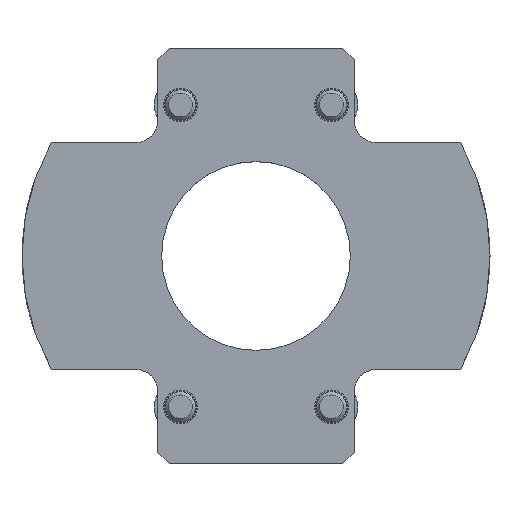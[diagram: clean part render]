
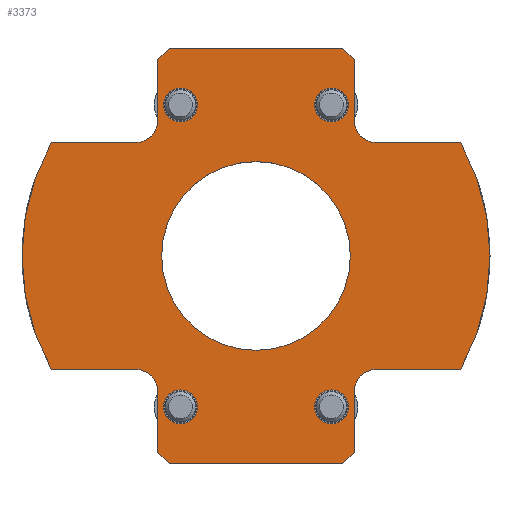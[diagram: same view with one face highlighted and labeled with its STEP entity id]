
A CAD part, top view. The second image highlights one B-rep face of the part: STEP entity #3373.
In plain terms, the highlighted planar face has unit normal (0, 0, 1) as drawn and (0, 0, -1) by its records, which use the part's own axes.
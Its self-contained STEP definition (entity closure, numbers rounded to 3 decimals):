
#159=FACE_BOUND('',#625,.T.);
#160=FACE_BOUND('',#626,.T.);
#161=FACE_BOUND('',#627,.T.);
#162=FACE_BOUND('',#628,.T.);
#163=FACE_BOUND('',#629,.T.);
#290=PLANE('',#3798);
#409=FACE_OUTER_BOUND('',#624,.T.);
#624=EDGE_LOOP('',(#2783,#2784,#2785,#2786,#2787,#2788,#2789,#2790,#2791,
#2792,#2793,#2794,#2795,#2796,#2797,#2798,#2799,#2800,#2801,#2802));
#625=EDGE_LOOP('',(#2803));
#626=EDGE_LOOP('',(#2804));
#627=EDGE_LOOP('',(#2805));
#628=EDGE_LOOP('',(#2806));
#629=EDGE_LOOP('',(#2807,#2808));
#771=LINE('',#5288,#1007);
#784=LINE('',#5328,#1020);
#796=LINE('',#5360,#1032);
#798=LINE('',#5363,#1034);
#827=LINE('',#5429,#1063);
#830=LINE('',#5434,#1066);
#832=LINE('',#5438,#1068);
#833=LINE('',#5440,#1069);
#837=LINE('',#5448,#1073);
#839=LINE('',#5451,#1075);
#882=LINE('',#5577,#1118);
#883=LINE('',#5581,#1119);
#890=LINE('',#5605,#1126);
#891=LINE('',#5609,#1127);
#1007=VECTOR('',#4246,10.);
#1020=VECTOR('',#4277,10.);
#1032=VECTOR('',#4299,10.);
#1034=VECTOR('',#4303,10.);
#1063=VECTOR('',#4348,10.);
#1066=VECTOR('',#4353,10.);
#1068=VECTOR('',#4357,10.);
#1069=VECTOR('',#4360,10.);
#1073=VECTOR('',#4366,10.);
#1075=VECTOR('',#4370,10.);
#1118=VECTOR('',#4509,10.);
#1119=VECTOR('',#4516,10.);
#1126=VECTOR('',#4543,10.);
#1127=VECTOR('',#4550,10.);
#1245=CIRCLE('',#3692,3.);
#1249=CIRCLE('',#3698,3.);
#1251=CIRCLE('',#3701,3.);
#1255=CIRCLE('',#3707,3.);
#1281=CIRCLE('',#3772,31.);
#1287=CIRCLE('',#3785,31.);
#1288=CIRCLE('',#3788,2.25);
#1289=CIRCLE('',#3790,2.25);
#1290=CIRCLE('',#3792,2.25);
#1291=CIRCLE('',#3794,2.25);
#1292=CIRCLE('',#3796,12.5);
#1293=CIRCLE('',#3797,12.5);
#1461=VERTEX_POINT('',#5277);
#1462=VERTEX_POINT('',#5279);
#1465=VERTEX_POINT('',#5287);
#1475=VERTEX_POINT('',#5308);
#1476=VERTEX_POINT('',#5310);
#1479=VERTEX_POINT('',#5317);
#1480=VERTEX_POINT('',#5319);
#1483=VERTEX_POINT('',#5327);
#1493=VERTEX_POINT('',#5348);
#1494=VERTEX_POINT('',#5350);
#1497=VERTEX_POINT('',#5357);
#1498=VERTEX_POINT('',#5359);
#1526=VERTEX_POINT('',#5426);
#1527=VERTEX_POINT('',#5428);
#1528=VERTEX_POINT('',#5432);
#1529=VERTEX_POINT('',#5436);
#1531=VERTEX_POINT('',#5445);
#1532=VERTEX_POINT('',#5447);
#1567=VERTEX_POINT('',#5575);
#1574=VERTEX_POINT('',#5603);
#1575=VERTEX_POINT('',#5611);
#1576=VERTEX_POINT('',#5615);
#1577=VERTEX_POINT('',#5619);
#1578=VERTEX_POINT('',#5623);
#1579=VERTEX_POINT('',#5627);
#1580=VERTEX_POINT('',#5628);
#1837=EDGE_CURVE('',#1461,#1462,#1245,.T.);
#1841=EDGE_CURVE('',#1462,#1465,#771,.T.);
#1852=EDGE_CURVE('',#1475,#1476,#1249,.T.);
#1856=EDGE_CURVE('',#1479,#1480,#1251,.T.);
#1860=EDGE_CURVE('',#1483,#1480,#784,.T.);
#1871=EDGE_CURVE('',#1493,#1494,#1255,.T.);
#1875=EDGE_CURVE('',#1497,#1498,#796,.T.);
#1877=EDGE_CURVE('',#1494,#1497,#798,.T.);
#1912=EDGE_CURVE('',#1526,#1527,#827,.T.);
#1915=EDGE_CURVE('',#1528,#1526,#830,.T.);
#1917=EDGE_CURVE('',#1529,#1528,#832,.T.);
#1918=EDGE_CURVE('',#1476,#1529,#833,.T.);
#1922=EDGE_CURVE('',#1531,#1532,#837,.T.);
#1924=EDGE_CURVE('',#1498,#1531,#839,.T.);
#1986=EDGE_CURVE('',#1567,#1475,#882,.T.);
#1987=EDGE_CURVE('',#1465,#1567,#1281,.T.);
#1988=EDGE_CURVE('',#1532,#1461,#883,.T.);
#2000=EDGE_CURVE('',#1493,#1574,#890,.T.);
#2001=EDGE_CURVE('',#1574,#1483,#1287,.T.);
#2002=EDGE_CURVE('',#1527,#1479,#891,.T.);
#2004=EDGE_CURVE('',#1575,#1575,#1288,.T.);
#2006=EDGE_CURVE('',#1576,#1576,#1289,.T.);
#2008=EDGE_CURVE('',#1577,#1577,#1290,.T.);
#2010=EDGE_CURVE('',#1578,#1578,#1291,.T.);
#2011=EDGE_CURVE('',#1579,#1580,#1292,.T.);
#2012=EDGE_CURVE('',#1580,#1579,#1293,.T.);
#2783=ORIENTED_EDGE('',*,*,#1875,.F.);
#2784=ORIENTED_EDGE('',*,*,#1877,.F.);
#2785=ORIENTED_EDGE('',*,*,#1871,.F.);
#2786=ORIENTED_EDGE('',*,*,#2000,.T.);
#2787=ORIENTED_EDGE('',*,*,#2001,.T.);
#2788=ORIENTED_EDGE('',*,*,#1860,.T.);
#2789=ORIENTED_EDGE('',*,*,#1856,.F.);
#2790=ORIENTED_EDGE('',*,*,#2002,.F.);
#2791=ORIENTED_EDGE('',*,*,#1912,.F.);
#2792=ORIENTED_EDGE('',*,*,#1915,.F.);
#2793=ORIENTED_EDGE('',*,*,#1917,.F.);
#2794=ORIENTED_EDGE('',*,*,#1918,.F.);
#2795=ORIENTED_EDGE('',*,*,#1852,.F.);
#2796=ORIENTED_EDGE('',*,*,#1986,.F.);
#2797=ORIENTED_EDGE('',*,*,#1987,.F.);
#2798=ORIENTED_EDGE('',*,*,#1841,.F.);
#2799=ORIENTED_EDGE('',*,*,#1837,.F.);
#2800=ORIENTED_EDGE('',*,*,#1988,.F.);
#2801=ORIENTED_EDGE('',*,*,#1922,.F.);
#2802=ORIENTED_EDGE('',*,*,#1924,.F.);
#2803=ORIENTED_EDGE('',*,*,#2004,.T.);
#2804=ORIENTED_EDGE('',*,*,#2006,.T.);
#2805=ORIENTED_EDGE('',*,*,#2008,.T.);
#2806=ORIENTED_EDGE('',*,*,#2010,.T.);
#2807=ORIENTED_EDGE('',*,*,#2011,.T.);
#2808=ORIENTED_EDGE('',*,*,#2012,.T.);
#3373=ADVANCED_FACE('',(#409,#159,#160,#161,#162,#163),#290,.F.);
#3692=AXIS2_PLACEMENT_3D('',#5280,#4238,#4239);
#3698=AXIS2_PLACEMENT_3D('',#5311,#4261,#4262);
#3701=AXIS2_PLACEMENT_3D('',#5320,#4269,#4270);
#3707=AXIS2_PLACEMENT_3D('',#5351,#4292,#4293);
#3772=AXIS2_PLACEMENT_3D('',#5579,#4512,#4513);
#3785=AXIS2_PLACEMENT_3D('',#5607,#4546,#4547);
#3788=AXIS2_PLACEMENT_3D('',#5613,#4554,#4555);
#3790=AXIS2_PLACEMENT_3D('',#5617,#4559,#4560);
#3792=AXIS2_PLACEMENT_3D('',#5621,#4564,#4565);
#3794=AXIS2_PLACEMENT_3D('',#5625,#4569,#4570);
#3796=AXIS2_PLACEMENT_3D('',#5629,#4573,#4574);
#3797=AXIS2_PLACEMENT_3D('',#5630,#4575,#4576);
#3798=AXIS2_PLACEMENT_3D('',#5632,#4578,#4579);
#4238=DIRECTION('center_axis',(0.,0.,-1.));
#4239=DIRECTION('ref_axis',(0.707,0.707,0.));
#4246=DIRECTION('',(0.,-1.,0.));
#4261=DIRECTION('center_axis',(0.,0.,-1.));
#4262=DIRECTION('ref_axis',(-0.707,0.707,0.));
#4269=DIRECTION('center_axis',(0.,0.,-1.));
#4270=DIRECTION('ref_axis',(-0.707,-0.707,0.));
#4277=DIRECTION('',(0.,-1.,0.));
#4292=DIRECTION('center_axis',(0.,0.,-1.));
#4293=DIRECTION('ref_axis',(0.707,-0.707,0.));
#4299=DIRECTION('',(-0.707,-0.707,0.));
#4303=DIRECTION('',(-1.,0.,0.));
#4348=DIRECTION('',(-0.707,0.707,0.));
#4353=DIRECTION('',(0.,1.,0.));
#4357=DIRECTION('',(0.707,0.707,0.));
#4360=DIRECTION('',(1.,0.,0.));
#4366=DIRECTION('',(0.707,-0.707,0.));
#4370=DIRECTION('',(0.,-1.,0.));
#4509=DIRECTION('',(0.,1.,0.));
#4512=DIRECTION('center_axis',(0.,0.,1.));
#4513=DIRECTION('ref_axis',(0.484,-0.875,0.));
#4516=DIRECTION('',(1.,0.,0.));
#4543=DIRECTION('',(0.,1.,0.));
#4546=DIRECTION('center_axis',(0.,0.,-1.));
#4547=DIRECTION('ref_axis',(0.484,0.875,0.));
#4550=DIRECTION('',(-1.,0.,0.));
#4554=DIRECTION('center_axis',(0.,0.,1.));
#4555=DIRECTION('ref_axis',(1.,0.,0.));
#4559=DIRECTION('center_axis',(0.,0.,1.));
#4560=DIRECTION('ref_axis',(1.,0.,0.));
#4564=DIRECTION('center_axis',(0.,0.,1.));
#4565=DIRECTION('ref_axis',(1.,0.,0.));
#4569=DIRECTION('center_axis',(0.,0.,1.));
#4570=DIRECTION('ref_axis',(1.,0.,0.));
#4573=DIRECTION('center_axis',(0.,0.,1.));
#4574=DIRECTION('ref_axis',(1.,0.,0.));
#4575=DIRECTION('center_axis',(0.,0.,1.));
#4576=DIRECTION('ref_axis',(1.,0.,0.));
#4578=DIRECTION('center_axis',(0.,0.,1.));
#4579=DIRECTION('ref_axis',(1.,0.,0.));
#5277=CARTESIAN_POINT('',(-18.,-13.,0.));
#5279=CARTESIAN_POINT('',(-15.,-16.,0.));
#5280=CARTESIAN_POINT('Origin',(-18.,-16.,0.));
#5287=CARTESIAN_POINT('',(-15.,-27.129,0.));
#5288=CARTESIAN_POINT('',(-15.,-17.5,0.));
#5308=CARTESIAN_POINT('',(15.,-16.,0.));
#5310=CARTESIAN_POINT('',(18.,-13.,0.));
#5311=CARTESIAN_POINT('Origin',(18.,-16.,0.));
#5317=CARTESIAN_POINT('',(18.,13.,0.));
#5319=CARTESIAN_POINT('',(15.,16.,0.));
#5320=CARTESIAN_POINT('Origin',(18.,16.,0.));
#5327=CARTESIAN_POINT('',(15.,27.129,0.));
#5328=CARTESIAN_POINT('',(15.,24.565,0.));
#5348=CARTESIAN_POINT('',(-15.,16.,0.));
#5350=CARTESIAN_POINT('',(-18.,13.,0.));
#5351=CARTESIAN_POINT('Origin',(-18.,16.,0.));
#5357=CARTESIAN_POINT('',(-26.,13.,0.));
#5359=CARTESIAN_POINT('',(-27.5,11.5,0.));
#5360=CARTESIAN_POINT('',(-23.125,15.875,0.));
#5363=CARTESIAN_POINT('',(27.5,13.,0.));
#5426=CARTESIAN_POINT('',(27.5,11.5,0.));
#5428=CARTESIAN_POINT('',(26.,13.,0.));
#5429=CARTESIAN_POINT('',(23.125,15.875,0.));
#5432=CARTESIAN_POINT('',(27.5,-11.5,0.));
#5434=CARTESIAN_POINT('',(27.5,-13.,0.));
#5436=CARTESIAN_POINT('',(26.,-13.,0.));
#5438=CARTESIAN_POINT('',(23.125,-15.875,0.));
#5440=CARTESIAN_POINT('',(-27.5,-13.,0.));
#5445=CARTESIAN_POINT('',(-27.5,-11.5,0.));
#5447=CARTESIAN_POINT('',(-26.,-13.,0.));
#5448=CARTESIAN_POINT('',(-23.125,-15.875,0.));
#5451=CARTESIAN_POINT('',(-27.5,13.,0.));
#5575=CARTESIAN_POINT('',(15.,-27.129,0.));
#5577=CARTESIAN_POINT('',(15.,-24.565,0.));
#5579=CARTESIAN_POINT('Origin',(0.,0.,0.));
#5581=CARTESIAN_POINT('',(-27.5,-13.,0.));
#5603=CARTESIAN_POINT('',(-15.,27.129,0.));
#5605=CARTESIAN_POINT('',(-15.,17.5,0.));
#5607=CARTESIAN_POINT('Origin',(0.,0.,0.));
#5609=CARTESIAN_POINT('',(27.5,13.,0.));
#5611=CARTESIAN_POINT('',(17.75,10.,0.));
#5613=CARTESIAN_POINT('Origin',(20.,10.,0.));
#5615=CARTESIAN_POINT('',(-22.25,-10.,0.));
#5617=CARTESIAN_POINT('Origin',(-20.,-10.,0.));
#5619=CARTESIAN_POINT('',(-22.25,10.,0.));
#5621=CARTESIAN_POINT('Origin',(-20.,10.,0.));
#5623=CARTESIAN_POINT('',(17.75,-10.,0.));
#5625=CARTESIAN_POINT('Origin',(20.,-10.,0.));
#5627=CARTESIAN_POINT('',(12.5,0.,0.));
#5628=CARTESIAN_POINT('',(-12.5,0.,0.));
#5629=CARTESIAN_POINT('Origin',(0.,0.,0.));
#5630=CARTESIAN_POINT('Origin',(0.,0.,0.));
#5632=CARTESIAN_POINT('Origin',(0.,0.,
0.));
